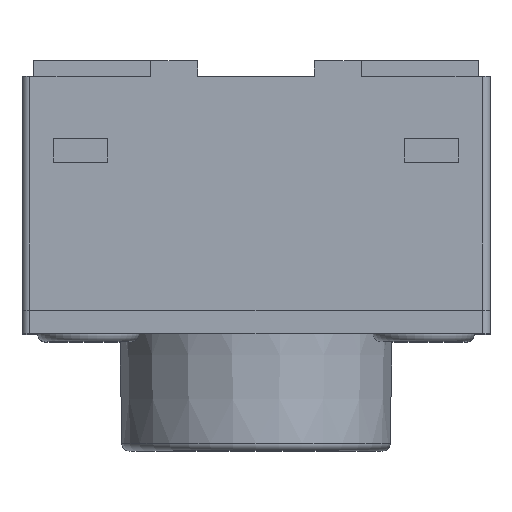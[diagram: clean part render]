
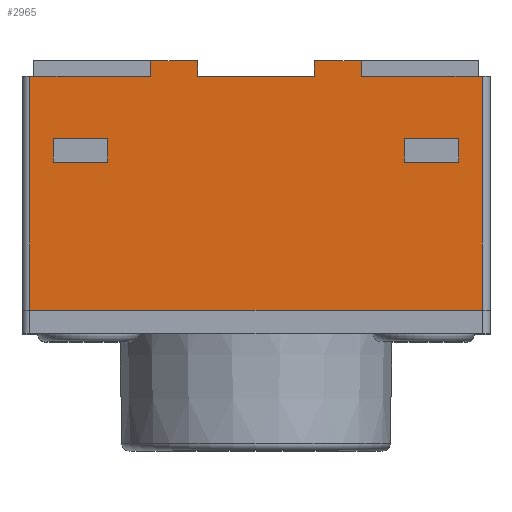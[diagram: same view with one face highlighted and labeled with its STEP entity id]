
A CAD part, top view. The second image highlights one B-rep face of the part: STEP entity #2965.
In plain terms, the highlighted planar face has unit normal (0, 0, 1).
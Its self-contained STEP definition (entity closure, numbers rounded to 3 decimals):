
#129=DIRECTION('',(1.,0.,0.));
#130=VECTOR('',#129,5.8);
#131=CARTESIAN_POINT('',(-2.9,0.,3.));
#132=LINE('',#131,#130);
#1067=DIRECTION('',(0.,1.,0.));
#1068=VECTOR('',#1067,0.3);
#1069=CARTESIAN_POINT('',(-2.6,1.9,3.));
#1070=LINE('',#1069,#1068);
#1074=DIRECTION('',(-1.,0.,0.));
#1075=VECTOR('',#1074,0.7);
#1076=CARTESIAN_POINT('',(-1.9,1.9,3.));
#1077=LINE('',#1076,#1075);
#1081=DIRECTION('',(0.,-1.,0.));
#1082=VECTOR('',#1081,0.3);
#1083=CARTESIAN_POINT('',(-1.9,2.2,3.));
#1084=LINE('',#1083,#1082);
#1088=DIRECTION('',(1.,0.,0.));
#1089=VECTOR('',#1088,0.7);
#1090=CARTESIAN_POINT('',(-2.6,2.2,3.));
#1091=LINE('',#1090,#1089);
#1095=DIRECTION('',(-1.,0.,0.));
#1096=VECTOR('',#1095,0.7);
#1097=CARTESIAN_POINT('',(2.6,1.9,3.));
#1098=LINE('',#1097,#1096);
#1102=DIRECTION('',(0.,-1.,0.));
#1103=VECTOR('',#1102,0.3);
#1104=CARTESIAN_POINT('',(2.6,2.2,3.));
#1105=LINE('',#1104,#1103);
#1109=DIRECTION('',(1.,0.,0.));
#1110=VECTOR('',#1109,0.7);
#1111=CARTESIAN_POINT('',(1.9,2.2,3.));
#1112=LINE('',#1111,#1110);
#1116=DIRECTION('',(0.,1.,0.));
#1117=VECTOR('',#1116,0.3);
#1118=CARTESIAN_POINT('',(1.9,1.9,3.));
#1119=LINE('',#1118,#1117);
#1123=DIRECTION('',(1.,0.,0.));
#1124=VECTOR('',#1123,1.55);
#1125=CARTESIAN_POINT('',(-2.9,3.,3.));
#1126=LINE('',#1125,#1124);
#1130=DIRECTION('',(0.,-1.,0.));
#1131=VECTOR('',#1130,0.2);
#1132=CARTESIAN_POINT('',(-1.35,3.2,3.));
#1133=LINE('',#1132,#1131);
#1137=DIRECTION('',(0.,-1.,0.));
#1138=VECTOR('',#1137,0.2);
#1139=CARTESIAN_POINT('',(-0.75,3.2,3.));
#1140=LINE('',#1139,#1138);
#1144=DIRECTION('',(1.,0.,0.));
#1145=VECTOR('',#1144,1.5);
#1146=CARTESIAN_POINT('',(-0.75,3.,3.));
#1147=LINE('',#1146,#1145);
#1151=DIRECTION('',(0.,-1.,0.));
#1152=VECTOR('',#1151,0.2);
#1153=CARTESIAN_POINT('',(0.75,3.2,3.));
#1154=LINE('',#1153,#1152);
#1158=DIRECTION('',(0.,-1.,0.));
#1159=VECTOR('',#1158,0.2);
#1160=CARTESIAN_POINT('',(1.35,3.2,3.));
#1161=LINE('',#1160,#1159);
#1165=DIRECTION('',(1.,0.,0.));
#1166=VECTOR('',#1165,1.55);
#1167=CARTESIAN_POINT('',(1.35,3.,3.));
#1168=LINE('',#1167,#1166);
#1172=DIRECTION('',(0.,-1.,0.));
#1173=VECTOR('',#1172,3.);
#1174=CARTESIAN_POINT('',(2.9,3.,3.));
#1175=LINE('',#1174,#1173);
#1179=DIRECTION('',(0.,-1.,0.));
#1180=VECTOR('',#1179,3.);
#1181=CARTESIAN_POINT('',(-2.9,3.,3.));
#1182=LINE('',#1181,#1180);
#1431=DIRECTION('',(1.,0.,0.));
#1432=VECTOR('',#1431,0.6);
#1433=CARTESIAN_POINT('',(-1.35,3.2,3.));
#1434=LINE('',#1433,#1432);
#1571=DIRECTION('',(1.,0.,0.));
#1572=VECTOR('',#1571,0.6);
#1573=CARTESIAN_POINT('',(0.75,3.2,3.));
#1574=LINE('',#1573,#1572);
#1732=CARTESIAN_POINT('',(-2.6,1.9,3.));
#1733=VERTEX_POINT('',#1732);
#1734=CARTESIAN_POINT('',(-2.6,2.2,3.));
#1735=VERTEX_POINT('',#1734);
#1736=CARTESIAN_POINT('',(-1.9,2.2,3.));
#1737=VERTEX_POINT('',#1736);
#1738=CARTESIAN_POINT('',(-1.9,1.9,3.));
#1739=VERTEX_POINT('',#1738);
#1740=CARTESIAN_POINT('',(2.6,1.9,3.));
#1741=VERTEX_POINT('',#1740);
#1742=CARTESIAN_POINT('',(1.9,1.9,3.));
#1743=VERTEX_POINT('',#1742);
#1744=CARTESIAN_POINT('',(1.9,2.2,3.));
#1745=VERTEX_POINT('',#1744);
#1746=CARTESIAN_POINT('',(2.6,2.2,3.));
#1747=VERTEX_POINT('',#1746);
#1876=CARTESIAN_POINT('',(-2.9,0.,3.));
#1878=VERTEX_POINT('',#1876);
#1881=CARTESIAN_POINT('',(2.9,0.,3.));
#1883=VERTEX_POINT('',#1881);
#1922=CARTESIAN_POINT('',(-1.35,3.,3.));
#1923=VERTEX_POINT('',#1922);
#1925=CARTESIAN_POINT('',(-0.75,3.,3.));
#1927=VERTEX_POINT('',#1925);
#1928=CARTESIAN_POINT('',(0.75,3.,3.));
#1930=VERTEX_POINT('',#1928);
#1932=CARTESIAN_POINT('',(1.35,3.,3.));
#1933=VERTEX_POINT('',#1932);
#1970=CARTESIAN_POINT('',(-1.35,3.2,3.));
#1971=VERTEX_POINT('',#1970);
#1972=CARTESIAN_POINT('',(-0.75,3.2,3.));
#1974=VERTEX_POINT('',#1972);
#1976=CARTESIAN_POINT('',(0.75,3.2,3.));
#1978=VERTEX_POINT('',#1976);
#1980=CARTESIAN_POINT('',(1.35,3.2,3.));
#1981=VERTEX_POINT('',#1980);
#1992=CARTESIAN_POINT('',(-2.9,3.,3.));
#1993=VERTEX_POINT('',#1992);
#1994=CARTESIAN_POINT('',(2.9,3.,3.));
#1995=VERTEX_POINT('',#1994);
#2921=CARTESIAN_POINT('',(-3.,0.,3.));
#2922=DIRECTION('',(0.,0.,1.));
#2923=DIRECTION('',(1.,0.,0.));
#2924=AXIS2_PLACEMENT_3D('',#2921,#2922,#2923);
#2925=PLANE('',#2924);
#2926=ORIENTED_EDGE('',*,*,#2598,.T.);
#2928=ORIENTED_EDGE('',*,*,#2927,.F.);
#2930=ORIENTED_EDGE('',*,*,#2929,.T.);
#2932=ORIENTED_EDGE('',*,*,#2931,.T.);
#2933=ORIENTED_EDGE('',*,*,#2621,.T.);
#2935=ORIENTED_EDGE('',*,*,#2934,.F.);
#2937=ORIENTED_EDGE('',*,*,#2936,.T.);
#2939=ORIENTED_EDGE('',*,*,#2938,.T.);
#2940=ORIENTED_EDGE('',*,*,#2657,.T.);
#2942=ORIENTED_EDGE('',*,*,#2941,.T.);
#2943=ORIENTED_EDGE('',*,*,#2011,.F.);
#2945=ORIENTED_EDGE('',*,*,#2944,.F.);
#2946=EDGE_LOOP('',(#2926,#2928,#2930,#2932,#2933,#2935,#2937,#2939,#2940,#2942,
#2943,#2945));
#2947=FACE_OUTER_BOUND('',#2946,.F.);
#2949=ORIENTED_EDGE('',*,*,#2948,.F.);
#2951=ORIENTED_EDGE('',*,*,#2950,.F.);
#2953=ORIENTED_EDGE('',*,*,#2952,.F.);
#2955=ORIENTED_EDGE('',*,*,#2954,.F.);
#2956=EDGE_LOOP('',(#2949,#2951,#2953,#2955));
#2957=FACE_BOUND('',#2956,.F.);
#2958=ORIENTED_EDGE('',*,*,#2730,.F.);
#2959=ORIENTED_EDGE('',*,*,#2788,.F.);
#2961=ORIENTED_EDGE('',*,*,#2960,.F.);
#2962=ORIENTED_EDGE('',*,*,#2871,.F.);
#2963=EDGE_LOOP('',(#2958,#2959,#2961,#2962));
#2964=FACE_BOUND('',#2963,.F.);
#2011=EDGE_CURVE('',#1878,#1883,#132,.T.);
#2598=EDGE_CURVE('',#1993,#1923,#1126,.T.);
#2621=EDGE_CURVE('',#1927,#1930,#1147,.T.);
#2657=EDGE_CURVE('',#1933,#1995,#1168,.T.);
#2730=EDGE_CURVE('',#1733,#1735,#1070,.T.);
#2788=EDGE_CURVE('',#1739,#1733,#1077,.T.);
#2871=EDGE_CURVE('',#1735,#1737,#1091,.T.);
#2927=EDGE_CURVE('',#1971,#1923,#1133,.T.);
#2929=EDGE_CURVE('',#1971,#1974,#1434,.T.);
#2931=EDGE_CURVE('',#1974,#1927,#1140,.T.);
#2934=EDGE_CURVE('',#1978,#1930,#1154,.T.);
#2936=EDGE_CURVE('',#1978,#1981,#1574,.T.);
#2938=EDGE_CURVE('',#1981,#1933,#1161,.T.);
#2941=EDGE_CURVE('',#1995,#1883,#1175,.T.);
#2944=EDGE_CURVE('',#1993,#1878,#1182,.T.);
#2948=EDGE_CURVE('',#1741,#1743,#1098,.T.);
#2950=EDGE_CURVE('',#1747,#1741,#1105,.T.);
#2952=EDGE_CURVE('',#1745,#1747,#1112,.T.);
#2954=EDGE_CURVE('',#1743,#1745,#1119,.T.);
#2960=EDGE_CURVE('',#1737,#1739,#1084,.T.);
#2965=ADVANCED_FACE('',(#2947,#2957,#2964),#2925,.T.);
